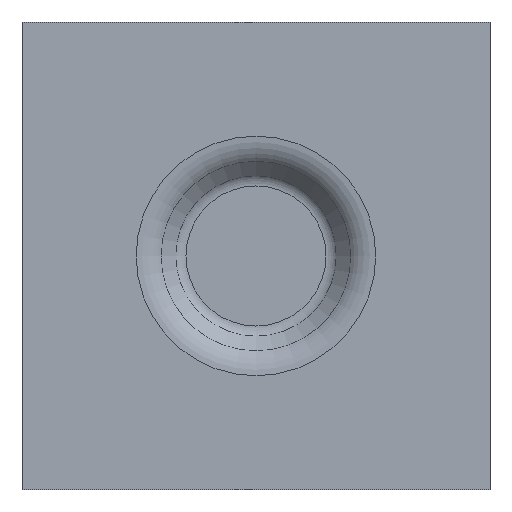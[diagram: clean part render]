
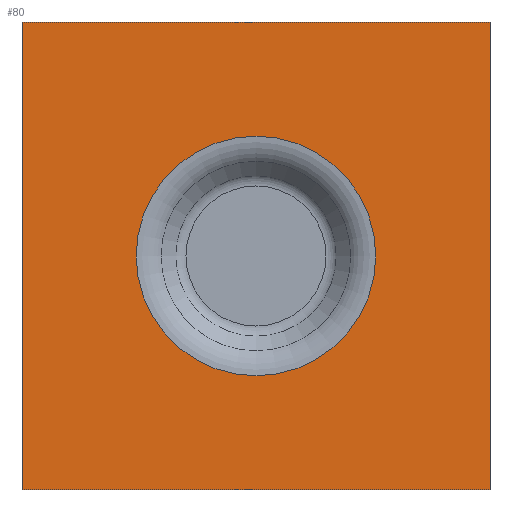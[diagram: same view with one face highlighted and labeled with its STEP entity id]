
A CAD part, top view. The second image highlights one B-rep face of the part: STEP entity #80.
In plain terms, the highlighted planar face has unit normal (0, 0, 1).
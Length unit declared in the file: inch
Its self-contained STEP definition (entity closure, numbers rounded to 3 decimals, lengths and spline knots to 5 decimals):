
#80=ADVANCED_FACE('',(#101,#102),#103,.F.);
#101=FACE_OUTER_BOUND('',#137,.T.);
#102=FACE_BOUND('',#138,.T.);
#103=PLANE('',#139);
#137=EDGE_LOOP('',(#198,#199,#200,#201));
#138=EDGE_LOOP('',(#202));
#139=AXIS2_PLACEMENT_3D('',#203,#204,#205);
#198=ORIENTED_EDGE('',*,*,#251,.T.);
#199=ORIENTED_EDGE('',*,*,#254,.T.);
#200=ORIENTED_EDGE('',*,*,#244,.T.);
#201=ORIENTED_EDGE('',*,*,#248,.T.);
#202=ORIENTED_EDGE('',*,*,#257,.F.);
#203=CARTESIAN_POINT('',(-22.87591,0.0,0.05));
#204=DIRECTION('',(0.0,0.0,-1.0));
#205=DIRECTION('',(0.0,1.0,0.0));
#244=EDGE_CURVE('',#264,#265,#266,.T.);
#248=EDGE_CURVE('',#265,#272,#273,.T.);
#251=EDGE_CURVE('',#272,#277,#278,.T.);
#254=EDGE_CURVE('',#277,#264,#282,.T.);
#257=EDGE_CURVE('',#286,#286,#287,.T.);
#264=VERTEX_POINT('',#300);
#265=VERTEX_POINT('',#301);
#266=LINE('',#302,#303);
#272=VERTEX_POINT('',#312);
#273=LINE('',#313,#314);
#277=VERTEX_POINT('',#320);
#278=LINE('',#321,#322);
#282=LINE('',#328,#329);
#286=VERTEX_POINT('',#334);
#287=CIRCLE('',#335,0.51213);
#300=CARTESIAN_POINT('',(-7.00046,14.39973,0.05));
#301=CARTESIAN_POINT('',(-9.00109,14.39973,0.05));
#302=CARTESIAN_POINT('',(-15.51434,14.39973,0.05));
#303=VECTOR('',#348,1.0);
#312=CARTESIAN_POINT('',(-9.00109,12.39989,0.05));
#313=CARTESIAN_POINT('',(-9.00109,6.62215,0.05));
#314=VECTOR('',#352,1.0);
#320=CARTESIAN_POINT('',(-7.00046,12.39989,0.05));
#321=CARTESIAN_POINT('',(-15.51434,12.39989,0.05));
#322=VECTOR('',#355,1.0);
#328=CARTESIAN_POINT('',(-7.00046,6.62215,0.05));
#329=VECTOR('',#358,1.0);
#334=CARTESIAN_POINT('',(-8.00091,12.88787,0.05));
#335=AXIS2_PLACEMENT_3D('',#363,#364,#365);
#348=DIRECTION('',(-1.0,0.0,0.0));
#352=DIRECTION('',(0.0,-1.0,0.0));
#355=DIRECTION('',(1.0,0.0,0.0));
#358=DIRECTION('',(0.0,1.0,0.0));
#363=CARTESIAN_POINT('',(-8.00091,13.4,0.05));
#364=DIRECTION('',(0.0,0.0,1.0));
#365=DIRECTION('',(0.,-1.0,0.0));
